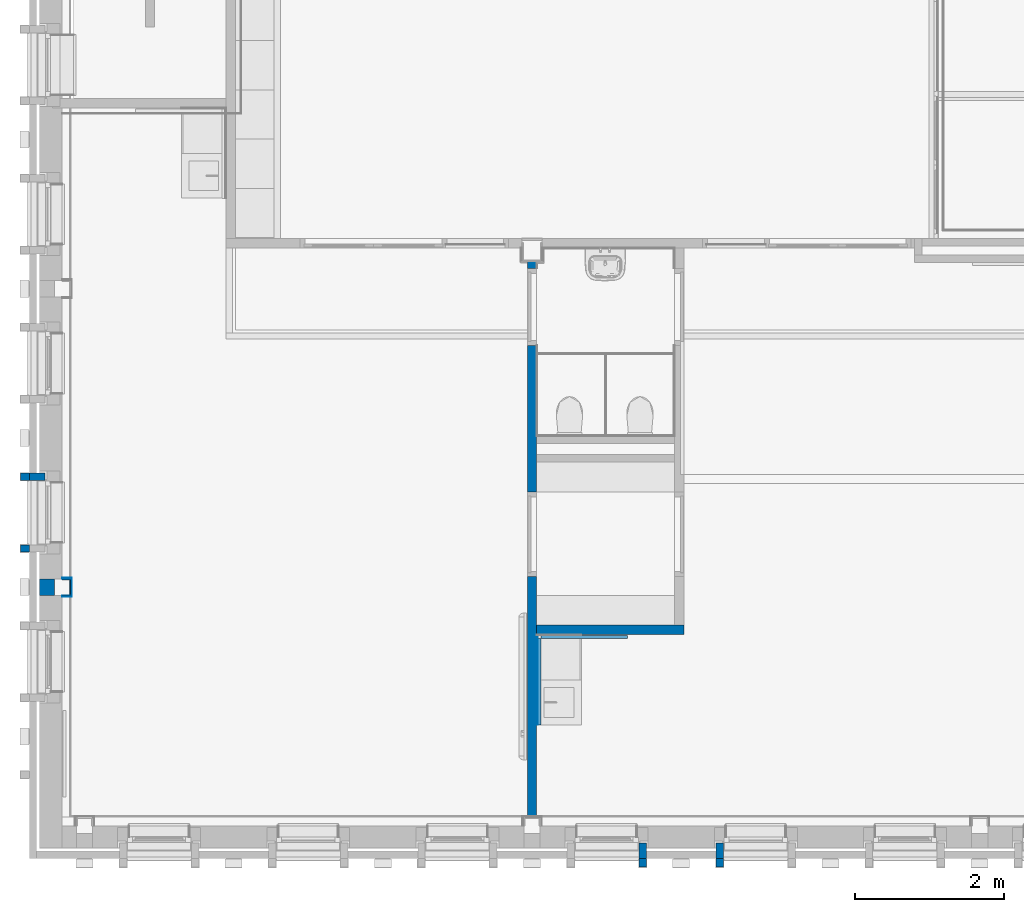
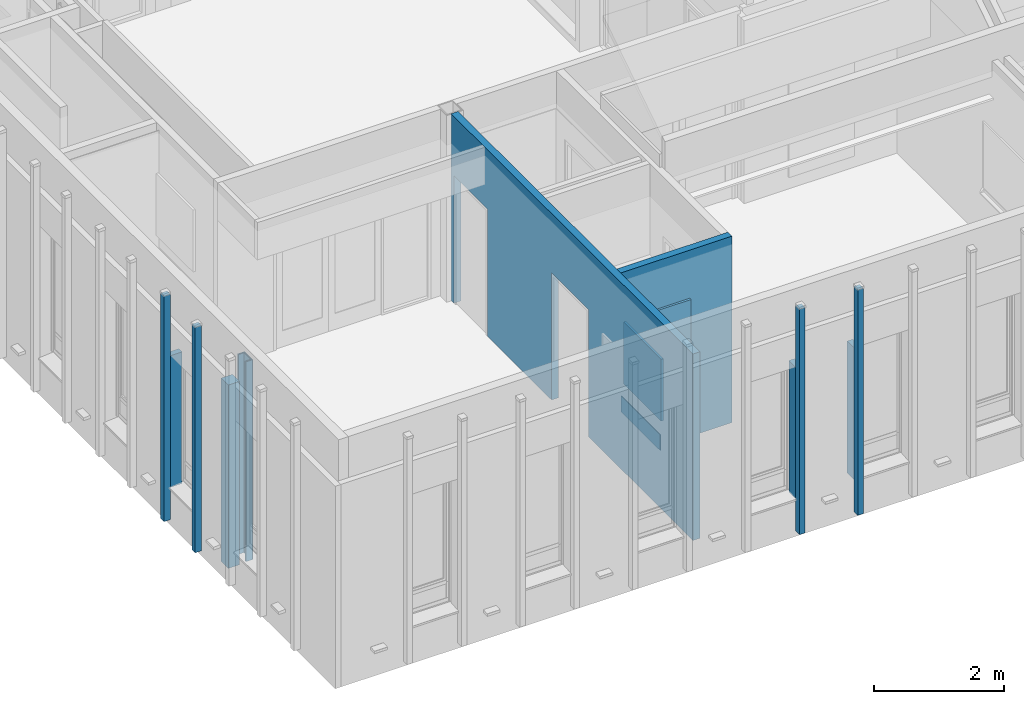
# One storey, part 27 of 118: 19 walls, 2 openings.
"""IFC2X3 building model written with IfcOpenShell, lengths in millimetres."""

import ifcopenshell
import ifcopenshell.guid

model = None  # the IFC model being written
_history = None  # IfcOwnerHistory: only IFC2X3 demands one
_inside = {}  # id of a spatial element -> (the spatial element, [elements in it])
_under = {}  # id of a project, library or spatial element -> (it, [spatial elements below it])
_declared = {}  # id of a project -> (the project, [libraries it declares])
_typed = {}  # id of a type object -> (the type object, [elements of that type])
_made_of = {}  # id of a material, layer set ... -> (it, [elements and type objects made of it])


def new_model(schema):
    """Start an empty IFC model of exactly this schema.

    Asked for "IFC4X3", IfcOpenShell would pick the latest addendum, in which some entities
    have other attributes; the version numbers below select the first issue.
    IFC2X3 requires an IfcOwnerHistory on every rooted entity: one is made here for all.
    """
    global model, _history
    if schema == "IFC4X3":
        model = ifcopenshell.file(schema_version=(4, 3, 0, 0))
    else:
        model = ifcopenshell.file(schema=schema)
    _inside.clear()
    _under.clear()
    _declared.clear()
    _typed.clear()
    _made_of.clear()
    _history = None
    if model.schema == "IFC2X3":
        org = make("IfcOrganization", Name="unknown")
        user = make(
            "IfcPersonAndOrganization",
            ThePerson=make("IfcPerson", FamilyName="unknown"),
            TheOrganization=org,
        )
        app = make(
            "IfcApplication",
            ApplicationDeveloper=org,
            Version="unknown",
            ApplicationFullName="unknown",
            ApplicationIdentifier="unknown",
        )
        _history = make(
            "IfcOwnerHistory",
            OwningUser=user,
            OwningApplication=app,
            ChangeAction="ADDED",
            CreationDate=0,
        )
    return model


def make(cls, **values):
    """One entity of the class cls with the attributes given. An attribute that is None is left unset."""
    return model.create_entity(
        cls, **{name: value for name, value in values.items() if value is not None}
    )


def entity(cls, *values):
    """Any entity or typed value of the class cls, its attributes in the order of the schema. None: left unset."""
    e = model.create_entity(cls)
    for i, value in enumerate(values):
        if value is not None:
            e[i] = value
    return e


def rooted(cls, **values):
    """An entity with a GlobalId (a new one), such as an element, a storey or a relation."""
    return make(cls, GlobalId=ifcopenshell.guid.new(), OwnerHistory=_history, **values)


def si_unit(unit_type, name, prefix=None):
    """IfcSIUnit, for example si_unit("LENGTHUNIT", "METRE", prefix="MILLI")."""
    return make("IfcSIUnit", UnitType=unit_type, Prefix=prefix, Name=name)


def converted_unit(unit_type, name, factor, base, dimensions=None, offset=None):
    """IfcConversionBasedUnit, such as the inch: factor (a typed value) times the base unit."""
    return make(
        "IfcConversionBasedUnit"
        if offset is None
        else "IfcConversionBasedUnitWithOffset",
        ConversionOffset=offset,
        Dimensions=None
        if dimensions is None
        else entity("IfcDimensionalExponents", *dimensions),
        UnitType=unit_type,
        Name=name,
        ConversionFactor=make(
            "IfcMeasureWithUnit", ValueComponent=factor, UnitComponent=base
        ),
    )


def derived_unit(unit_type, elements):
    """IfcDerivedUnit: a product of units, each with its exponent."""
    return make(
        "IfcDerivedUnit",
        Elements=[
            make("IfcDerivedUnitElement", Unit=unit, Exponent=power)
            for unit, power in elements
        ],
        UnitType=unit_type,
    )


def assignment(units):
    """IfcUnitAssignment: the units of a project."""
    return None if units is None else make("IfcUnitAssignment", Units=units)


def point(xyz):
    """IfcCartesianPoint."""
    return None if xyz is None else make("IfcCartesianPoint", Coordinates=xyz)


def direction(xyz):
    """IfcDirection."""
    return None if xyz is None else make("IfcDirection", DirectionRatios=xyz)


def frame(location, z_axis=None, x_axis=None):
    """IfcAxis2Placement3D, a coordinate frame: its origin and axes. An axis left out is left unset."""
    return make(
        "IfcAxis2Placement3D",
        Location=point(location),
        Axis=direction(z_axis),
        RefDirection=direction(x_axis),
    )


def frame_2d(location, x_axis=None):
    """IfcAxis2Placement2D, a coordinate frame in the plane: its origin and x axis."""
    return make(
        "IfcAxis2Placement2D", Location=point(location), RefDirection=direction(x_axis)
    )


def origin():
    """The frame at (0, 0, 0) with its axes left unset."""
    return frame((0.0, 0.0, 0.0))


def place(relative_to, where):
    """IfcLocalPlacement: puts the frame where relative to a parent placement (None: the world)."""
    return make(
        "IfcLocalPlacement", PlacementRelTo=relative_to, RelativePlacement=where
    )


def context(
    kind, dimensions, precision=None, world=None, true_north=None, identifier=None
):
    """IfcGeometricRepresentationContext, for example the 3D "Model" context."""
    return make(
        "IfcGeometricRepresentationContext",
        ContextIdentifier=identifier,
        ContextType=kind,
        CoordinateSpaceDimension=dimensions,
        Precision=precision,
        WorldCoordinateSystem=world,
        TrueNorth=true_north,
    )


def subcontext(parent, identifier, kind, view, scale=None):
    """IfcGeometricRepresentationSubContext, for example "Body" below "Model"."""
    return make(
        "IfcGeometricRepresentationSubContext",
        ContextIdentifier=identifier,
        ContextType=kind,
        ParentContext=parent,
        TargetScale=scale,
        TargetView=view,
    )


def project(units=None, contexts=None):
    """IfcProject with its units and contexts."""
    return rooted(
        "IfcProject",
        Name="project",
        RepresentationContexts=contexts,
        UnitsInContext=assignment(units),
    )


def spatial(cls, under=None, at=None, **own):
    """A site, building, storey or space (cls), placed at a placement, below another one or the project."""
    s = rooted(cls, ObjectPlacement=at, **own)
    if under is not None:
        _under.setdefault(under.id(), (under, []))[1].append(s)
    return s


def profile(cls, at=None, kind="AREA", **sizes):
    """A parametric profile (cls). Its sizes go by their IFC names, for example OverallWidth=200.0."""
    return make(cls, ProfileType=kind, Position=at, **sizes)


def rectangle(**sizes):
    """IfcRectangleProfileDef."""
    return profile("IfcRectangleProfileDef", **sizes)


def extrude(swept, where, along, depth):
    """IfcExtrudedAreaSolid: the profile swept, set in the frame where, extruded along a direction by depth."""
    return make(
        "IfcExtrudedAreaSolid",
        SweptArea=swept,
        Position=where,
        ExtrudedDirection=direction(along),
        Depth=depth,
    )


def shape(context_of_items, identifier, shape_type, items):
    """IfcShapeRepresentation: the items that make up one representation, for example the "Body"."""
    return make(
        "IfcShapeRepresentation",
        ContextOfItems=context_of_items,
        RepresentationIdentifier=identifier,
        RepresentationType=shape_type,
        Items=items,
    )


def material(Name=None, Category=None):
    """IfcMaterial."""
    return make("IfcMaterial", Name=Name, Category=Category)


def layer(
    of_material, thickness, ventilated=None, Name=None, Category=None, Priority=None
):
    """IfcMaterialLayer: one layer of a wall or slab, of a material (None: an air gap)."""
    return make(
        "IfcMaterialLayer",
        Material=of_material,
        LayerThickness=thickness,
        IsVentilated=ventilated,
        Name=Name,
        Category=Category,
        Priority=Priority,
    )


def layer_set(layers, Name=None):
    """IfcMaterialLayerSet."""
    return make("IfcMaterialLayerSet", MaterialLayers=layers, LayerSetName=Name)


def layer_usage(for_layer_set, set_direction, sense, offset, extent=None):
    """IfcMaterialLayerSetUsage: how a layer set lies in its element."""
    return make(
        "IfcMaterialLayerSetUsage",
        ForLayerSet=for_layer_set,
        LayerSetDirection=set_direction,
        DirectionSense=sense,
        OffsetFromReferenceLine=offset,
        ReferenceExtent=extent,
    )


def made_of(thing, what):
    """Note that an element or type object is made of a material, layer set ...; save() writes the relation."""
    if what is not None:
        _made_of.setdefault(what.id(), (what, []))[1].append(thing)
    return thing


def type_object(cls, material=None, **own):
    """A type object (cls), such as IfcWallType, which elements share."""
    return made_of(rooted(cls, **own), material)


def element(
    cls,
    number,
    at=None,
    inside=None,
    cuts=None,
    type_object=None,
    material=None,
    context=None,
    identifier="Body",
    shape_type=None,
    held_by="IfcProductDefinitionShape",
    body=None,
    shapes=None,
    **own,
):
    """One element of the class cls, such as IfcWall. Its Tag is "e" and its number.

    at: its placement. inside: the storey or other place that contains it. cuts: it is an
    opening in that element (IfcRelVoidsElement). A single representation is given by context,
    identifier, shape_type and body (its items); several are given by shapes. held_by: the class
    of the entity that holds the representations. save() writes the other relations.
    """
    e = rooted(cls, Tag="e%d" % number, ObjectPlacement=at, **own)
    if body is not None:
        shapes = [shape(context, identifier, shape_type, body)]
    if shapes is not None:
        e.Representation = make(held_by, Representations=shapes)
    if inside is not None:
        _inside.setdefault(inside.id(), (inside, []))[1].append(e)
    if cuts is not None:
        rooted(
            "IfcRelVoidsElement", RelatingBuildingElement=cuts, RelatedOpeningElement=e
        )
    if type_object is not None:
        _typed.setdefault(type_object.id(), (type_object, []))[1].append(e)
    return made_of(e, material)


def aggregate(whole, parts):
    """IfcRelAggregates: a whole, such as a stair, and the parts it consists of."""
    return rooted("IfcRelAggregates", RelatingObject=whole, RelatedObjects=parts)


def save(model, path):
    """Write the relations noted so far, then the file.

    IfcRelAggregates (storeys below a building ...), IfcRelContainedInSpatialStructure (elements
    in a storey), IfcRelDefinesByType, IfcRelAssociatesMaterial and IfcRelDeclares: one each for
    every whole, place, type object, material and project.
    """
    for whole, parts in _under.values():
        aggregate(whole, parts)
    for where, things in _inside.values():
        rooted(
            "IfcRelContainedInSpatialStructure",
            RelatedElements=things,
            RelatingStructure=where,
        )
    for kind, things in _typed.values():
        rooted("IfcRelDefinesByType", RelatedObjects=things, RelatingType=kind)
    for what, things in _made_of.values():
        rooted("IfcRelAssociatesMaterial", RelatedObjects=things, RelatingMaterial=what)
    for by, libraries in _declared.values():
        rooted("IfcRelDeclares", RelatingContext=by, RelatedDefinitions=libraries)
    model.write(path)


model = new_model("IFC2X3")

# Units and contexts
model_context = context("Model", 3, precision=0.01, world=origin(), true_north=direction((6.123031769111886e-17, 1.0)))
plan_context = context("Plan", 3, precision=0.01, world=origin(), true_north=direction((6.123031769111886e-17, 1.0)))
body_context = subcontext(model_context, "Body", "Model", "MODEL_VIEW")
ifc_project = project(units=[si_unit("LENGTHUNIT", "METRE", prefix="MILLI"), si_unit("AREAUNIT", "SQUARE_METRE"), si_unit("VOLUMEUNIT", "CUBIC_METRE"), converted_unit("PLANEANGLEUNIT", "DEGREE", entity("IfcRatioMeasure", 0.017453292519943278), si_unit("PLANEANGLEUNIT", "RADIAN"), dimensions=[0, 0, 0, 0, 0, 0, 0]), si_unit("MASSUNIT", "GRAM", prefix="KILO"), derived_unit("MASSDENSITYUNIT", [(si_unit("MASSUNIT", "GRAM", prefix="KILO"), 1), (si_unit("LENGTHUNIT", "METRE"), -3)]), derived_unit("IONCONCENTRATIONUNIT", [(si_unit("MASSUNIT", "GRAM", prefix="KILO"), 1), (si_unit("LENGTHUNIT", "METRE"), -3)]), derived_unit("MOMENTOFINERTIAUNIT", [(si_unit("LENGTHUNIT", "METRE"), 4)]), si_unit("TIMEUNIT", "SECOND"), si_unit("FREQUENCYUNIT", "HERTZ"), si_unit("THERMODYNAMICTEMPERATUREUNIT", "DEGREE_CELSIUS"), derived_unit("THERMALTRANSMITTANCEUNIT", [(si_unit("MASSUNIT", "GRAM", prefix="KILO"), 1), (si_unit("THERMODYNAMICTEMPERATUREUNIT", "KELVIN"), -1), (si_unit("TIMEUNIT", "SECOND"), -3)]), derived_unit("THERMALCONDUCTANCEUNIT", [(si_unit("MASSUNIT", "GRAM", prefix="KILO"), 1), (si_unit("THERMODYNAMICTEMPERATUREUNIT", "KELVIN"), -1), (si_unit("TIMEUNIT", "SECOND"), -3), (si_unit("LENGTHUNIT", "METRE"), 1)]), derived_unit("VOLUMETRICFLOWRATEUNIT", [(si_unit("LENGTHUNIT", "METRE"), 3), (si_unit("TIMEUNIT", "SECOND"), -1)]), derived_unit("MASSFLOWRATEUNIT", [(si_unit("MASSUNIT", "GRAM", prefix="KILO"), 1), (si_unit("TIMEUNIT", "SECOND"), -1)]), derived_unit("ROTATIONALFREQUENCYUNIT", [(si_unit("TIMEUNIT", "SECOND"), -1)]), si_unit("ELECTRICCURRENTUNIT", "AMPERE"), si_unit("ELECTRICVOLTAGEUNIT", "VOLT"), si_unit("POWERUNIT", "WATT"), si_unit("FORCEUNIT", "NEWTON", prefix="KILO"), si_unit("ILLUMINANCEUNIT", "LUX"), si_unit("LUMINOUSFLUXUNIT", "LUMEN"), si_unit("LUMINOUSINTENSITYUNIT", "CANDELA"), derived_unit("USERDEFINED", [(si_unit("MASSUNIT", "GRAM", prefix="KILO"), -1), (si_unit("LENGTHUNIT", "METRE"), -2), (si_unit("TIMEUNIT", "SECOND"), 3), (si_unit("LUMINOUSFLUXUNIT", "LUMEN"), 1)]), derived_unit("USERDEFINED", [(si_unit("MASSUNIT", "GRAM", prefix="KILO"), 1), (si_unit("TIMEUNIT", "SECOND"), -3), (si_unit("LENGTHUNIT", "METRE"), 3), (si_unit("ELECTRICCURRENTUNIT", "AMPERE"), -2)]), derived_unit("SOUNDPOWERUNIT", [(si_unit("MASSUNIT", "GRAM", prefix="KILO"), 1), (si_unit("TIMEUNIT", "SECOND"), -3), (si_unit("LENGTHUNIT", "METRE"), 2)]), derived_unit("SOUNDPRESSUREUNIT", [(si_unit("MASSUNIT", "GRAM", prefix="KILO"), 1), (si_unit("LENGTHUNIT", "METRE"), -1), (si_unit("TIMEUNIT", "SECOND"), -2)]), derived_unit("LINEARVELOCITYUNIT", [(si_unit("LENGTHUNIT", "METRE"), 1), (si_unit("TIMEUNIT", "SECOND"), -1)]), si_unit("PRESSUREUNIT", "PASCAL"), derived_unit("USERDEFINED", [(si_unit("MASSUNIT", "GRAM", prefix="KILO"), 1), (si_unit("LENGTHUNIT", "METRE"), -2), (si_unit("TIMEUNIT", "SECOND"), -2)]), derived_unit("LINEARFORCEUNIT", [(si_unit("MASSUNIT", "GRAM", prefix="KILO"), 1), (si_unit("TIMEUNIT", "SECOND"), -2)]), derived_unit("PLANARFORCEUNIT", [(si_unit("MASSUNIT", "GRAM", prefix="KILO"), 1), (si_unit("LENGTHUNIT", "METRE"), -1), (si_unit("TIMEUNIT", "SECOND"), -2)]), derived_unit("SPECIFICHEATCAPACITYUNIT", [(si_unit("THERMODYNAMICTEMPERATUREUNIT", "KELVIN"), -1), (si_unit("LENGTHUNIT", "METRE"), 2), (si_unit("TIMEUNIT", "SECOND"), -2)]), derived_unit("HEATINGVALUEUNIT", [(si_unit("LENGTHUNIT", "METRE"), 2), (si_unit("TIMEUNIT", "SECOND"), -2)]), derived_unit("VAPORPERMEABILITYUNIT", [(si_unit("LENGTHUNIT", "METRE"), -1), (si_unit("TIMEUNIT", "SECOND"), 1)]), derived_unit("DYNAMICVISCOSITYUNIT", [(si_unit("MASSUNIT", "GRAM", prefix="KILO"), 1), (si_unit("TIMEUNIT", "SECOND"), -1), (si_unit("LENGTHUNIT", "METRE"), -1)]), derived_unit("THERMALEXPANSIONCOEFFICIENTUNIT", [(si_unit("THERMODYNAMICTEMPERATUREUNIT", "KELVIN"), -1)]), derived_unit("MODULUSOFELASTICITYUNIT", [(si_unit("MASSUNIT", "GRAM", prefix="KILO"), 1), (si_unit("LENGTHUNIT", "METRE"), -1), (si_unit("TIMEUNIT", "SECOND"), -2)]), derived_unit("ISOTHERMALMOISTURECAPACITYUNIT", [(si_unit("LENGTHUNIT", "METRE"), 3), (si_unit("MASSUNIT", "GRAM", prefix="KILO"), -1)]), derived_unit("MOISTUREDIFFUSIVITYUNIT", [(si_unit("TIMEUNIT", "SECOND"), -1), (si_unit("LENGTHUNIT", "METRE"), 2)])], contexts=[model_context, plan_context])

# Site, building, storey
site_placement = place(None, origin())
site = spatial("IfcSite", under=ifc_project, at=site_placement, Name="Locatie", CompositionType="ELEMENT")
building_placement = place(site_placement, origin())
building = spatial("IfcBuilding", under=site, at=building_placement, Name="Bouwwerk", CompositionType="ELEMENT")
storey_placement = place(building_placement, frame((0.0, 0.0, 7800.0)))
storey = spatial("IfcBuildingStorey", under=building, at=storey_placement, Name="02 tweede verdieping", CompositionType="ELEMENT", Elevation=7800.000000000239)

# Walls
ifc_material_1 = material(Name="g2_metselwerk_geel licht")
ifc_layer_1 = layer(ifc_material_1, 100.0)
ifc_layer_set_1 = layer_set([ifc_layer_1], Name="Basic Wall:21_WA_metselwerk_licht_100_gen_bdg")
ifc_layer_usage_1 = layer_usage(ifc_layer_set_1, "AXIS2", "NEGATIVE", 50.0)
wall_type_1 = type_object("IfcWallType", Name="Basic Wall:21_WA_metselwerk_licht_100_gen_bdg", PredefinedType="STANDARD", material=ifc_layer_set_1)
wall_1_placement = place(storey_placement, frame((18818.0, 9770.0, 603.0), z_axis=(0.0, 0.0, 1.0), x_axis=(0.0, -1.0, 0.0)))
element("IfcWallStandardCase", 1, at=wall_1_placement, inside=storey, type_object=wall_type_1, material=ifc_layer_usage_1, Name="Basic Wall:21_WA_metselwerk_licht_100_gen_bdg", ObjectType="Basic Wall:21_WA_metselwerk_licht_100_gen_bdg", context=body_context, shape_type="SweptSolid", body=[
    extrude(rectangle(XDim=210.00000000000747, YDim=99.99999999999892, at=frame_2d((105.00000000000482, 9.130474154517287e-13), x_axis=(-1.0, 0.0))), origin(), (0.0, 0.0, 1.0), 2471.999999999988),
])
wall_2_placement = place(storey_placement, frame((18818.0, 9560.0, 0.0), z_axis=(0.0, 0.0, 1.0), x_axis=(0.0, -1.0, 0.0)))
element("IfcWallStandardCase", 2, at=wall_2_placement, inside=storey, type_object=wall_type_1, material=ifc_layer_usage_1, Name="Basic Wall:21_WA_metselwerk_licht_100_gen_bdg", ObjectType="Basic Wall:21_WA_metselwerk_licht_100_gen_bdg", context=body_context, shape_type="SweptSolid", body=[
    extrude(rectangle(XDim=115.00000000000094, YDim=99.99999999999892, at=frame_2d((57.50000000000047, 3.730349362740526e-13), x_axis=(-1.0, 0.0))), origin(), (0.0, 0.0, 1.0), 4232.000000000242),
])
ifc_layer_usage_2 = layer_usage(ifc_layer_set_1, "AXIS2", "POSITIVE", -50.0)
wall_3_placement = place(storey_placement, frame((17782.0, 9770.0, 603.0), z_axis=(0.0, 0.0, 1.0), x_axis=(0.0, -1.0, 0.0)))
element("IfcWallStandardCase", 3, at=wall_3_placement, inside=storey, type_object=wall_type_1, material=ifc_layer_usage_2, Name="Basic Wall:21_WA_metselwerk_licht_100_gen_bdg", ObjectType="Basic Wall:21_WA_metselwerk_licht_100_gen_bdg", context=body_context, shape_type="SweptSolid", body=[
    extrude(rectangle(XDim=210.00000000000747, YDim=99.99999999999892, at=frame_2d((105.00000000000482, 2.3447910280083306e-13), x_axis=(-1.0, 0.0))), origin(), (0.0, 0.0, 1.0), 2471.999999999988),
])
wall_4_placement = place(storey_placement, frame((17782.0, 9560.0, 0.0), z_axis=(0.0, 0.0, 1.0), x_axis=(0.0, -1.0, 0.0)))
element("IfcWallStandardCase", 4, at=wall_4_placement, inside=storey, type_object=wall_type_1, material=ifc_layer_usage_2, Name="Basic Wall:21_WA_metselwerk_licht_100_gen_bdg", ObjectType="Basic Wall:21_WA_metselwerk_licht_100_gen_bdg", context=body_context, shape_type="SweptSolid", body=[
    extrude(rectangle(XDim=115.00000000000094, YDim=99.99999999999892, at=frame_2d((57.50000000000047, 3.730349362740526e-13), x_axis=(-1.0, 0.0))), origin(), (0.0, 0.0, 1.0), 4231.99999999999),
])
wall_5_placement = place(storey_placement, frame((9770.0, 14682.0, 603.0), z_axis=(0.0, 0.0, 1.0), x_axis=(-1.0, 0.0, 0.0)))
element("IfcWallStandardCase", 5, at=wall_5_placement, inside=storey, type_object=wall_type_1, material=ifc_layer_usage_1, Name="Basic Wall:21_WA_metselwerk_licht_100_gen_bdg", ObjectType="Basic Wall:21_WA_metselwerk_licht_100_gen_bdg", context=body_context, shape_type="SweptSolid", body=[
    extrude(rectangle(XDim=210.00000000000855, YDim=99.99999999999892, at=frame_2d((105.00000000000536, 6.181721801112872e-13), x_axis=(-1.0, 0.0))), origin(), (0.0, 0.0, 1.0), 2471.999999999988),
])
wall_6_placement = place(storey_placement, frame((9560.0, 14682.0, 0.0), z_axis=(0.0, 0.0, 1.0), x_axis=(-1.0, 0.0, 0.0)))
element("IfcWallStandardCase", 6, at=wall_6_placement, inside=storey, type_object=wall_type_1, material=ifc_layer_usage_1, Name="Basic Wall:21_WA_metselwerk_licht_100_gen_bdg", ObjectType="Basic Wall:21_WA_metselwerk_licht_100_gen_bdg", context=body_context, shape_type="SweptSolid", body=[
    extrude(rectangle(XDim=114.99999999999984, YDim=99.99999999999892, at=frame_2d((57.49999999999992, -9.201528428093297e-13), x_axis=(-1.0, 0.0))), origin(), (0.0, 0.0, 1.0), 4232.000000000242),
])
wall_7_placement = place(storey_placement, frame((9560.0, 13718.0, 0.0), z_axis=(0.0, 0.0, 1.0), x_axis=(-1.0, 0.0, 0.0)))
element("IfcWallStandardCase", 7, at=wall_7_placement, inside=storey, type_object=wall_type_1, material=ifc_layer_usage_2, Name="Basic Wall:21_WA_metselwerk_licht_100_gen_bdg", ObjectType="Basic Wall:21_WA_metselwerk_licht_100_gen_bdg", context=body_context, shape_type="SweptSolid", body=[
    extrude(rectangle(XDim=114.99999999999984, YDim=99.99999999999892, at=frame_2d((57.49999999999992, -9.201528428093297e-13), x_axis=(-1.0, 0.0))), origin(), (0.0, 0.0, 1.0), 4231.99999999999),
])
ifc_material_2 = material(Name="f7_gipsvezel")
ifc_layer_2 = layer(ifc_material_2, 12.5)
ifc_material_3 = material(Name="f7_gips")
ifc_layer_3 = layer(ifc_material_3, 12.5)
ifc_material_4 = material(Name="n7_isolatie_glaswol")
ifc_layer_4 = layer(ifc_material_4, 75.0)
ifc_layer_5 = layer(ifc_material_3, 12.5)
ifc_layer_6 = layer(ifc_material_2, 12.5)
ifc_layer_set_2 = layer_set([ifc_layer_2, ifc_layer_3, ifc_layer_4, ifc_layer_5, ifc_layer_6], Name="Basic Wall: 25-75-25 _gen_bdg")
ifc_layer_usage_3 = layer_usage(ifc_layer_set_2, "AXIS2", "NEGATIVE", 62.50000000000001)
wall_type_2 = type_object("IfcWallType", Name="Basic Wall: 25-75-25 _gen_bdg", PredefinedType="STANDARD", material=ifc_layer_set_2)
wall_8_placement = place(storey_placement, frame((16362.500000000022, 12627.500019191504, 0.0)))
element("IfcWallStandardCase", 8, at=wall_8_placement, inside=storey, type_object=wall_type_2, material=ifc_layer_usage_3, Name="Basic Wall: 25-75-25 _gen_bdg", ObjectType="Basic Wall: 25-75-25 _gen_bdg", context=body_context, shape_type="SweptSolid", body=[
    extrude(rectangle(XDim=1975.0000000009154, YDim=125.0000000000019, at=frame_2d((987.5000000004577, 8.526512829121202e-14), x_axis=(-1.0, 0.0))), origin(), (0.0, 0.0, 1.0), 3500.0000000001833),
])

# Wall, openings
wall_9_placement = place(storey_placement, frame((16300.0, 10128.0, 0.0), z_axis=(0.0, 0.0, 1.0), x_axis=(0.0, 1.0, 0.0)))
wall_9 = element("IfcWallStandardCase", 9, at=wall_9_placement, inside=storey, type_object=wall_type_2, material=ifc_layer_usage_3, Name="Basic Wall: 25-75-25 _gen_bdg", ObjectType="Basic Wall: 25-75-25 _gen_bdg", context=body_context, shape_type="SweptSolid", body=[
    extrude(rectangle(XDim=7436.999999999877, YDim=125.0000000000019, at=frame_2d((3718.4999999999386, 5.364597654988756e-13), x_axis=(-1.0, 0.0))), origin(), (0.0, 0.0, 1.0), 3500.0000000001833),
])
opening_1_placement = place(wall_9_placement, frame((-10128.0, 16300.0, 0.0), z_axis=(0.0, 0.0, 1.0), x_axis=(0.0, -1.0, 0.0)))
element("IfcOpeningElement", 10, at=opening_1_placement, cuts=wall_9, Name="Basic Wall: 25-75-25 _gen_bdg", ObjectType="Opening", context=body_context, shape_type="SweptSolid", body=[
    extrude(rectangle(XDim=2387.000000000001, YDim=1034.000000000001, at=frame_2d((1.1368683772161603e-12, -1.0800249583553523e-12), x_axis=(1.0, 0.0))), frame((17886.500000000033, 16958.0, 1193.4999999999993), z_axis=(-1.0, 0.0, 0.0), x_axis=(0.0, 0.0, 1.0)), (0.0, 0.0, 1.0), 3048.0),
])
opening_2_placement = place(wall_9_placement, frame((-10128.0, 16300.0, 0.0), z_axis=(0.0, 0.0, 1.0), x_axis=(0.0, -1.0, 0.0)))
element("IfcOpeningElement", 11, at=opening_2_placement, cuts=wall_9, Name="Basic Wall: 25-75-25 _gen_bdg", ObjectType="Opening", context=body_context, shape_type="SweptSolid", body=[
    extrude(rectangle(XDim=2387.000000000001, YDim=1134.0, at=frame_2d((1.1368683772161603e-12, 1.0800249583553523e-12), x_axis=(1.0, 0.0))), frame((17886.50000000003, 13907.999963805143, 1193.4999999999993), z_axis=(-1.0, 0.0, 0.0), x_axis=(0.0, 0.0, 1.0)), (0.0, 0.0, 1.0), 3048.0),
])

# Walls
ifc_layer_7 = layer(ifc_material_2, 13.000000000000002)
ifc_layer_set_3 = layer_set([ifc_layer_7], Name="Basic Wall:NLRS_41_WA_gips 13_gen_ISR")
ifc_layer_usage_4 = layer_usage(ifc_layer_set_3, "AXIS2", "NEGATIVE", 6.500000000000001)
wall_type_3 = type_object("IfcWallType", Name="Basic Wall:NLRS_41_WA_gips 13_gen_ISR", PredefinedType="STANDARD", material=ifc_layer_set_3)
wall_10_placement = place(storey_placement, frame((10121.500000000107, 13328.0, 0.0), z_axis=(0.0, 0.0, 1.0), x_axis=(0.0, -1.0, 0.0)))
element("IfcWallStandardCase", 12, at=wall_10_placement, inside=storey, type_object=wall_type_3, material=ifc_layer_usage_4, Name="Basic Wall:NLRS_41_WA_gips 13_gen_ISR", ObjectType="Basic Wall:NLRS_41_WA_gips 13_gen_ISR", context=body_context, shape_type="SweptSolid", body=[
    extrude(rectangle(XDim=255.9999999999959, YDim=13.000000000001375, at=frame_2d((127.99999999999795, -4.871658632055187e-13), x_axis=(-1.0, 0.0))), origin(), (0.0, 0.0, 1.0), 3750.000000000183),
])
wall_11_placement = place(storey_placement, frame((10115.0, 13078.499999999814, 0.0), z_axis=(0.0, 0.0, 1.0), x_axis=(-1.0, 0.0, 0.0)))
element("IfcWallStandardCase", 13, at=wall_11_placement, inside=storey, type_object=wall_type_3, material=ifc_layer_usage_4, Name="Basic Wall:NLRS_41_WA_gips 13_gen_ISR", ObjectType="Basic Wall:NLRS_41_WA_gips 13_gen_ISR", context=body_context, shape_type="SweptSolid", body=[
    extrude(rectangle(XDim=115.00000000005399, YDim=13.000000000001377, at=frame_2d((57.50000000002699, -3.965716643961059e-13), x_axis=(-1.0, 0.0))), origin(), (0.0, 0.0, 1.0), 3750.000000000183),
])
ifc_layer_usage_5 = layer_usage(ifc_layer_set_3, "AXIS2", "POSITIVE", -6.500000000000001)
wall_12_placement = place(storey_placement, frame((10115.0, 13321.49999999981, 0.0), z_axis=(0.0, 0.0, 1.0), x_axis=(-1.0, 0.0, 0.0)))
element("IfcWallStandardCase", 14, at=wall_12_placement, inside=storey, type_object=wall_type_3, material=ifc_layer_usage_5, Name="Basic Wall:NLRS_41_WA_gips 13_gen_ISR", ObjectType="Basic Wall:NLRS_41_WA_gips 13_gen_ISR", context=body_context, shape_type="SweptSolid", body=[
    extrude(rectangle(XDim=115.00000000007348, YDim=13.000000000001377, at=frame_2d((57.50000000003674, -3.965716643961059e-13), x_axis=(-1.0, 0.0))), origin(), (0.0, 0.0, 1.0), 3750.000000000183),
])
ifc_material_5 = material(Name="n7_isolatie_Resol")
ifc_layer_8 = layer(ifc_material_5, 200.0)
ifc_layer_set_4 = layer_set([ifc_layer_8], Name="Basic Wall:NLRS_22_WA_HSB bispouw 200_gen_ISR")
ifc_layer_usage_6 = layer_usage(ifc_layer_set_4, "AXIS2", "NEGATIVE", 100.0)
wall_type_4 = type_object("IfcWallType", Name="Basic Wall:NLRS_22_WA_HSB bispouw 200_gen_ISR", PredefinedType="STANDARD", material=ifc_layer_set_4)
wall_13_placement = place(storey_placement, frame((9800.0, 13090.0, -30.0), z_axis=(0.0, 0.0, 1.0), x_axis=(0.0, 1.0, 0.0)))
element("IfcWallStandardCase", 15, at=wall_13_placement, inside=storey, type_object=wall_type_4, material=ifc_layer_usage_6, Name="Basic Wall:NLRS_22_WA_HSB bispouw 200_gen_ISR", ObjectType="Basic Wall:NLRS_22_WA_HSB bispouw 200_gen_ISR", context=body_context, shape_type="SweptSolid", body=[
    extrude(rectangle(XDim=220.00000000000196, YDim=199.99999999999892, at=frame_2d((110.00000000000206, -1.0658141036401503e-13), x_axis=(-1.0, 0.0))), origin(), (0.0, 0.0, 1.0), 3440.0000000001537),
])
ifc_layer_9 = layer(ifc_material_3, 12.0)
ifc_layer_set_5 = layer_set([ifc_layer_9], Name="Basic Wall:NLRS_41_WA_beplating 12_gen_ISR")
ifc_layer_usage_7 = layer_usage(ifc_layer_set_5, "AXIS2", "NEGATIVE", 6.0)
wall_type_5 = type_object("IfcWallType", Name="Basic Wall:NLRS_41_WA_beplating 12_gen_ISR", PredefinedType="STANDARD", material=ifc_layer_set_5)
wall_14_placement = place(storey_placement, frame((16368.500000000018, 12553.000061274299, 900.0), z_axis=(0.0, 0.0, 1.0), x_axis=(0.0, -1.0, 0.0)))
element("IfcWallStandardCase", 16, at=wall_14_placement, inside=storey, type_object=wall_type_5, material=ifc_layer_usage_7, Name="Basic Wall:NLRS_41_WA_beplating 12_gen_ISR", ObjectType="Basic Wall:NLRS_41_WA_beplating 12_gen_ISR", context=body_context, shape_type="SweptSolid", body=[
    extrude(rectangle(XDim=1198.0000739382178, YDim=12.000000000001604, at=frame_2d((599.0000369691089, 0.0), x_axis=(-1.0, 0.0))), origin(), (0.0, 0.0, 1.0), 300.0000000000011),
])
ifc_material_6 = material(Name="ISR_brandwerende beplating")
ifc_layer_10 = layer(ifc_material_6, 15.0)
ifc_layer_set_6 = layer_set([ifc_layer_10], Name="Basic Wall:NLRS_41_WA_brandwerende beplating 15_gen_ISR")
ifc_layer_usage_8 = layer_usage(ifc_layer_set_6, "AXIS2", "NEGATIVE", 7.5)
wall_type_6 = type_object("IfcWallType", Name="Basic Wall:NLRS_41_WA_brandwerende beplating 15_gen_ISR", PredefinedType="STANDARD", material=ifc_layer_set_6)
wall_15_placement = place(storey_placement, frame((10115.0, 13092.499999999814, 0.0), z_axis=(0.0, 0.0, 1.0), x_axis=(-1.0, 0.0, 0.0)))
element("IfcWallStandardCase", 17, at=wall_15_placement, inside=storey, type_object=wall_type_6, material=ifc_layer_usage_8, Name="Basic Wall:NLRS_41_WA_brandwerende beplating 15_gen_ISR", ObjectType="Basic Wall:NLRS_41_WA_brandwerende beplating 15_gen_ISR", context=body_context, shape_type="SweptSolid", body=[
    extrude(rectangle(XDim=115.00000000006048, YDim=15.000000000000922, at=frame_2d((57.50000000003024, -3.965716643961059e-13), x_axis=(-1.0, 0.0))), origin(), (0.0, 0.0, 1.0), 3750.000000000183),
])
ifc_layer_usage_9 = layer_usage(ifc_layer_set_6, "AXIS2", "POSITIVE", -7.5)
wall_16_placement = place(storey_placement, frame((10115.0, 13307.499999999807, 0.0), z_axis=(0.0, 0.0, 1.0), x_axis=(-1.0, 0.0, 0.0)))
element("IfcWallStandardCase", 18, at=wall_16_placement, inside=storey, type_object=wall_type_6, material=ifc_layer_usage_9, Name="Basic Wall:NLRS_41_WA_brandwerende beplating 15_gen_ISR", ObjectType="Basic Wall:NLRS_41_WA_brandwerende beplating 15_gen_ISR", context=body_context, shape_type="SweptSolid", body=[
    extrude(rectangle(XDim=115.00000000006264, YDim=15.000000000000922, at=frame_2d((57.50000000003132, -3.965716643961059e-13), x_axis=(-1.0, 0.0))), origin(), (0.0, 0.0, 1.0), 3750.000000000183),
])
wall_17_placement = place(storey_placement, frame((10107.500000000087, 13300.0, 0.0), z_axis=(0.0, 0.0, 1.0), x_axis=(0.0, -1.0, 0.0)))
element("IfcWallStandardCase", 19, at=wall_17_placement, inside=storey, type_object=wall_type_6, material=ifc_layer_usage_8, Name="Basic Wall:NLRS_41_WA_brandwerende beplating 15_gen_ISR", ObjectType="Basic Wall:NLRS_41_WA_brandwerende beplating 15_gen_ISR", context=body_context, shape_type="SweptSolid", body=[
    extrude(rectangle(XDim=199.99999999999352, YDim=15.000000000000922, at=frame_2d((99.99999999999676, -3.1308289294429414e-13), x_axis=(-1.0, 0.0))), origin(), (0.0, 0.0, 1.0), 3750.000000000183),
])
ifc_material_7 = material(Name="f7_binnenwandafwerking")
ifc_layer_11 = layer(ifc_material_7, 1.0)
ifc_material_8 = material(Name="ISR_Luchtspouw")
ifc_layer_12 = layer(ifc_material_8, 39.0)
ifc_layer_set_7 = layer_set([ifc_layer_11, ifc_layer_12], Name="Basic Wall:NLRS_41_WA_akoestische panelen 40_gen_ISR")
ifc_layer_usage_10 = layer_usage(ifc_layer_set_7, "AXIS2", "POSITIVE", -20.0)
wall_type_7 = type_object("IfcWallType", Name="Basic Wall:NLRS_41_WA_akoestische panelen 40_gen_ISR", PredefinedType="STANDARD", material=ifc_layer_set_7)
wall_18_placement = place(storey_placement, frame((16417.500001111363, 12530.0, 1450.0)))
element("IfcWallStandardCase", 20, at=wall_18_placement, inside=storey, type_object=wall_type_7, material=ifc_layer_usage_10, Name="Basic Wall:NLRS_41_WA_akoestische panelen 40_gen_ISR", ObjectType="Basic Wall:NLRS_41_WA_akoestische panelen 40_gen_ISR", context=body_context, shape_type="SweptSolid", body=[
    extrude(rectangle(XDim=1160.0000000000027, YDim=39.999999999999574, at=frame_2d((580.0000000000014, -1.3500311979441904e-13), x_axis=(-1.0, 0.0))), origin(), (0.0, 0.0, 1.0), 1160.0000000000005),
])
wall_19_placement = place(storey_placement, frame((16397.499999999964, 11350.0, 1450.0), z_axis=(0.0, 0.0, 1.0), x_axis=(0.0, 1.0, 0.0)))
element("IfcWallStandardCase", 21, at=wall_19_placement, inside=storey, type_object=wall_type_7, material=ifc_layer_usage_10, Name="Basic Wall:NLRS_41_WA_akoestische panelen 40_gen_ISR", ObjectType="Basic Wall:NLRS_41_WA_akoestische panelen 40_gen_ISR", context=body_context, shape_type="SweptSolid", body=[
    extrude(rectangle(XDim=1160.0000000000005, YDim=39.999999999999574, at=frame_2d((580.0000000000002, 3.268496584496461e-13), x_axis=(-1.0, 0.0))), origin(), (0.0, 0.0, 1.0), 1160.0000000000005),
])

save(model, "model.ifc")
